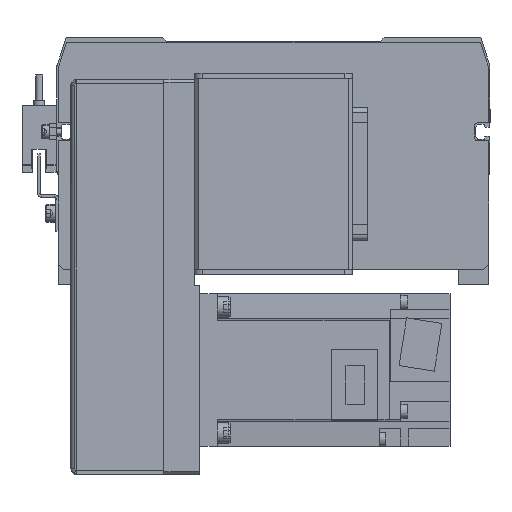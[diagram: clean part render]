
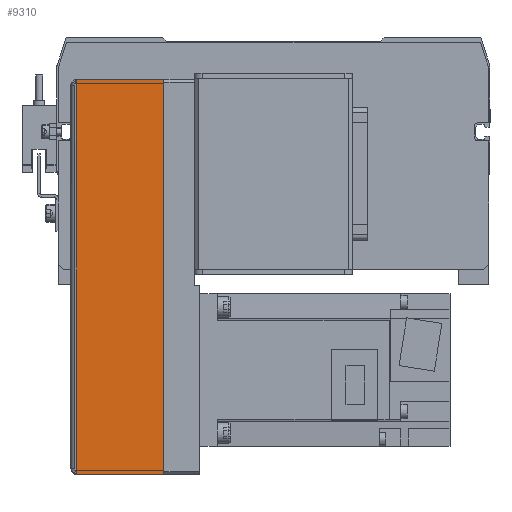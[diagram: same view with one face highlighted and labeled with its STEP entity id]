
A CAD part, front view. The second image highlights one B-rep face of the part: STEP entity #9310.
In plain terms, the highlighted planar face has unit normal (0, -1, 0) as drawn and (0, 1, 0) by its records, which use the part's own axes.
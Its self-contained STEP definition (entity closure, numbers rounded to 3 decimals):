
#404 = ORIENTED_EDGE ( 'NONE', *, *, #21644, .F. ) ;
#1266 = DIRECTION ( 'NONE',  ( 1., 0., 0. ) ) ;
#2139 = DIRECTION ( 'NONE',  ( 0., 0., -1. ) ) ;
#2370 = VECTOR ( 'NONE', #23148, 1000. ) ;
#3823 = CARTESIAN_POINT ( 'NONE',  ( 35., 59.837, -134.327 ) ) ;
#5043 = DIRECTION ( 'NONE',  ( 1., 0., 0. ) ) ;
#5597 = PLANE ( 'NONE',  #33499 ) ;
#5613 = LINE ( 'NONE', #28373, #38227 ) ;
#7884 = VERTEX_POINT ( 'NONE', #14144 ) ;
#8163 = EDGE_CURVE ( 'NONE', #17626, #29689, #37798, .T. ) ;
#8275 = ORIENTED_EDGE ( 'NONE', *, *, #35987, .F. ) ;
#9310 = ADVANCED_FACE ( 'NONE', ( #19931 ), #5597, .F. ) ;
#9684 = CARTESIAN_POINT ( 'NONE',  ( 35., 59.837, 20.673 ) ) ;
#10162 = VECTOR ( 'NONE', #22471, 1000. ) ;
#14144 = CARTESIAN_POINT ( 'NONE',  ( 0.737, 59.837, 20.673 ) ) ;
#16025 = CARTESIAN_POINT ( 'NONE',  ( 35., 59.837, -134.327 ) ) ;
#16291 = CARTESIAN_POINT ( 'NONE',  ( 0.737, 59.837, -134.327 ) ) ;
#16365 = CARTESIAN_POINT ( 'NONE',  ( 0.737, 59.837, -134.327 ) ) ;
#17033 = CARTESIAN_POINT ( 'NONE',  ( 0.737, 59.837, -134.327 ) ) ;
#17626 = VERTEX_POINT ( 'NONE', #16025 ) ;
#17693 = EDGE_CURVE ( 'NONE', #7884, #29689, #5613, .T. ) ;
#19931 = FACE_OUTER_BOUND ( 'NONE', #24204, .T. ) ;
#21644 = EDGE_CURVE ( 'NONE', #29496, #17626, #38444, .T. ) ;
#22471 = DIRECTION ( 'NONE',  ( 0., 0., 1. ) ) ;
#23148 = DIRECTION ( 'NONE',  ( 1., 0., 0. ) ) ;
#24204 = EDGE_LOOP ( 'NONE', ( #8275, #40173, #34665, #404 ) ) ;
#25288 = VECTOR ( 'NONE', #2139, 1000. ) ;
#28373 = CARTESIAN_POINT ( 'NONE',  ( 0.737, 59.837, 20.673 ) ) ;
#29496 = VERTEX_POINT ( 'NONE', #17033 ) ;
#29689 = VERTEX_POINT ( 'NONE', #9684 ) ;
#30625 = CARTESIAN_POINT ( 'NONE',  ( 0., 59.837, 0. ) ) ;
#33499 = AXIS2_PLACEMENT_3D ( 'NONE', #30625, #37089, #5043 ) ;
#33686 = LINE ( 'NONE', #16291, #25288 ) ;
#34665 = ORIENTED_EDGE ( 'NONE', *, *, #8163, .F. ) ;
#35987 = EDGE_CURVE ( 'NONE', #7884, #29496, #33686, .T. ) ;
#37089 = DIRECTION ( 'NONE',  ( 0., -1., 0. ) ) ;
#37798 = LINE ( 'NONE', #3823, #10162 ) ;
#38227 = VECTOR ( 'NONE', #1266, 1000. ) ;
#38444 = LINE ( 'NONE', #16365, #2370 ) ;
#40173 = ORIENTED_EDGE ( 'NONE', *, *, #17693, .T. ) ;
